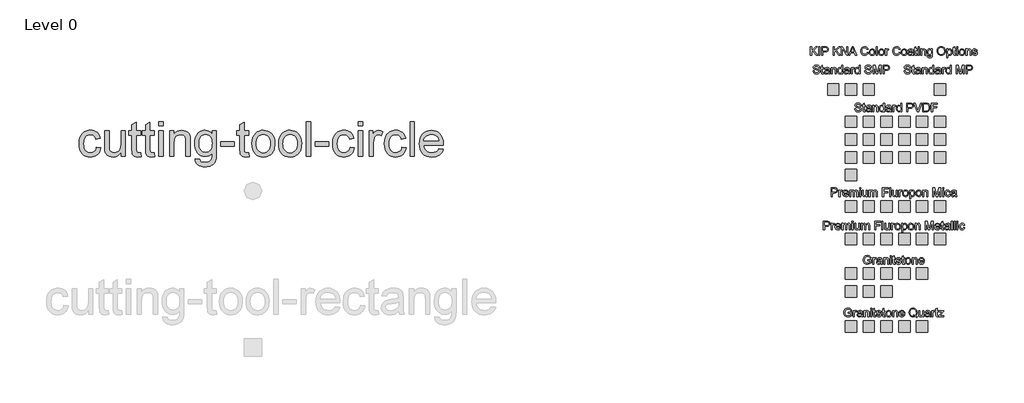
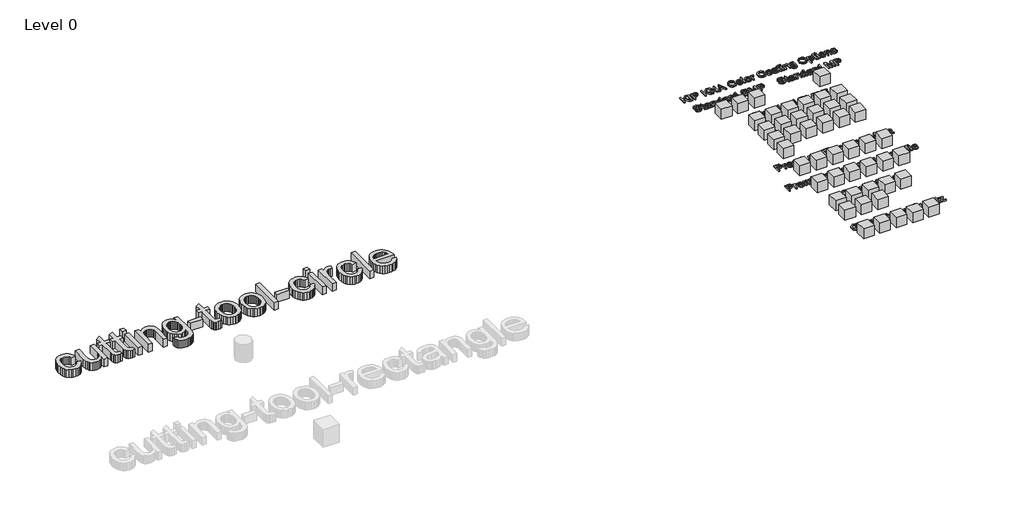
# One storey, part 3 of 3: 50 proxies.
"""IFC4 building model written with IfcOpenShell, lengths in millimetres."""

from ifc_helpers import new_model, si_unit, origin, origin_with_axes, place, context, project, spatial, polyline, outline, extrude, transform, mapped, element, save
from components import ks_color_sample_ks_color_sample_0243efec, r19_kna_color_range_kingspan_quadcore_4278cd54, r19_kna_color_range_kingspan_quadcore_c5814d20, r19_kna_color_range_kingspan_quadcore_91b79b7c

model = new_model("IFC4")

# Units and contexts
model_context = context("Model", 3, world=origin())
ifc_project = project(units=[si_unit("LENGTHUNIT", "METRE", prefix="MILLI")], contexts=[model_context])

# Site, building, storey
site = spatial("IfcSite", under=ifc_project)
building = spatial("IfcBuilding", under=site)
storey = spatial("IfcBuildingStorey", under=building, Name="Level 0", Elevation=0.0)

# Proxies
placement = place(None, origin())
element("IfcBuildingElementProxy", 1, Name="24\" Arial", ObjectType="24\" Arial", at=placement, inside=storey, context=model_context, shape_type="SweptSolid", body=[
    extrude(outline(polyline([(-693.1020406, 12635.1308129), (-616.9602671, 12625.6130912), (-625.2418003, 12589.6846213), (-638.1892479, 12557.8922707), (-655.8026098, 12530.2360393), (-678.0818861, 12506.7159273), (-704.088317, 12487.9453814), (-732.883143, 12474.5378487), (-764.466364, 12466.493329), (-798.83798, 12463.8118225), (-841.5422498, 12467.5529191), (-879.8315609, 12478.7762091), (-913.7059131, 12497.4816924), (-943.1653066, 12523.6693691), (-967.0107314, 12556.8466225), (-984.0431776, 12596.5208364), (-994.2626454, 12642.6920107), (-997.6691347, 12695.3601455), (-991.8506837, 12763.1181446), (-984.57762, 12793.6092442), (-974.3953309, 12821.8417439), (-961.2341063, 12847.2486699), (-945.0242366, 12869.2630486), (-925.7657216, 12887.8848801), (-903.4585614, 12903.1141642), (-879.1112255, 12914.9555484), (-853.7321834, 12923.41368), (-827.3214352, 12928.488559), (-799.8789808, 12930.1801853), (-766.0975751, 12927.8565228), (-735.5414129, 12920.8855352), (-708.2104943, 12909.2672226), (-684.1048193, 12893.0015849), (-663.6333525, 12872.4604082), (-647.2050585, 12848.0154785), (-634.8199372, 12819.6667957), (-626.4779888, 12787.4143599), (-702.6197623, 12777.8966382), (-716.4316123, 12811.1157177), (-737.9394326, 12834.9286112), (-765.953508, 12849.2609616), (-799.2841232, 12854.0384118), (-825.1557817, 12851.6868653), (-848.4900008, 12844.6322259), (-869.2867803, 12832.8744935), (-887.5461204, 12816.4136682), (-902.4129133, 12794.8686693), (-913.032051, 12767.8584162), (-919.4035336, 12735.3829087), (-921.5273612, 12697.4421471), (-919.4500069, 12658.9297645), (-913.217944, 12626.0778237), (-902.8311725, 12598.8863249), (-888.2896924, 12577.355268), (-870.3928437, 12560.9920365), (-849.9399662, 12549.304014), (-826.9310599, 12542.2912005), (-801.3661248, 12539.953596), (-761.9382192, 12545.7906363), (-744.8871836, 12553.0869366), (-729.6114261, 12563.301757), (-716.5385008, 12576.5466334), (-706.0959614, 12592.9331015), (-698.283808, 12612.4611613), (-693.1020406, 12635.1308129)])), origin_with_axes(), (0.0, 0.0, 1.0), 152.4),
    extrude(outline(polyline([(-264.8045646, 12473.3295442), (-264.8045646, 12550.2148897), (-292.3539074, 12512.4135478), (-324.4390395, 12485.4125893), (-361.0599609, 12469.2120142), (-402.2166715, 12463.8118225), (-439.3023253, 12467.6040397), (-473.8226557, 12478.9806914), (-502.7847854, 12496.0828476), (-523.195837, 12517.0515782), (-536.9333298, 12542.5189194), (-545.8747832, 12573.1169075), (-550.3362153, 12643.9049626), (-550.3362153, 12920.6624636), (-474.1944417, 12920.6624636), (-474.1944417, 12679.7451333), (-473.0419051, 12631.5616673), (-469.5842953, 12602.1162158), (-458.4864831, 12576.2213206), (-439.469629, 12556.5352518), (-413.7978055, 12544.0990099), (-382.7350849, 12539.953596), (-349.8877915, 12544.1919564), (-319.1596783, 12556.9070378), (-293.8224621, 12576.9277141), (-277.1478599, 12603.0828594), (-267.8903884, 12638.9044408), (-264.8045646, 12687.9244254), (-264.8045646, 12920.6624636), (-188.6627911, 12920.6624636), (-188.6627911, 12473.3295442), (-264.8045646, 12473.3295442)])), origin_with_axes(), (0.0, 0.0, 1.0), 152.4),
    extrude(outline(polyline([(77.8334163, 12536.8305936), (87.3511379, 12471.0988282), (57.1992931, 12465.6335739), (30.3935222, 12463.8118225), (-6.1530419, 12466.9720035), (-33.404956, 12476.4525466), (-52.663471, 12491.0637365), (-65.2298379, 12509.6158581), (-72.1450576, 12541.4779186), (-74.4501308, 12596.0189253), (-74.4501308, 12844.5206901), (-131.5564609, 12844.5206901), (-131.5564609, 12920.6624636), (-74.4501308, 12920.6624636), (-74.4501308, 13029.372691), (1.6916427, 13074.1357258), (1.6916427, 12920.6624636), (77.8334163, 12920.6624636), (77.8334163, 12844.5206901), (1.6916427, 12844.5206901), (1.6916427, 12598.2496414), (5.7069316, 12558.9890394), (18.7194417, 12545.0842429), (29.7057181, 12541.2362577), (44.6701047, 12539.953596), (77.8334163, 12536.8305936)])), origin_with_axes(), (0.0, 0.0, 1.0), 152.4),
    extrude(outline(polyline([(315.7764585, 12536.8305936), (325.2941802, 12471.0988282), (295.1423353, 12465.6335739), (268.3365644, 12463.8118225), (231.7900003, 12466.9720035), (204.5380862, 12476.4525466), (185.2795713, 12491.0637365), (172.7132043, 12509.6158581), (165.7979847, 12541.4779186), (163.4929115, 12596.0189253), (163.4929115, 12844.5206901), (106.3865813, 12844.5206901), (106.3865813, 12920.6624636), (163.4929115, 12920.6624636), (163.4929115, 13029.372691), (239.634685, 13074.1357258), (239.634685, 12920.6624636), (315.7764585, 12920.6624636), (315.7764585, 12844.5206901), (239.634685, 12844.5206901), (239.634685, 12598.2496414), (243.6499738, 12558.9890394), (256.6624839, 12545.0842429), (267.6487603, 12541.2362577), (282.613147, 12539.953596), (315.7764585, 12536.8305936)])), origin_with_axes(), (0.0, 0.0, 1.0), 152.4),
    extrude(outline(polyline([(391.918232, 13006.3219588), (391.918232, 13082.4637323), (468.0600055, 13082.4637323), (468.0600055, 13006.3219588), (391.918232, 13006.3219588)])), origin_with_axes(), (0.0, 0.0, 1.0), 152.4),
    extrude(outline(polyline([(391.918232, 12473.3295442), (391.918232, 12920.6624636), (468.0600055, 12920.6624636), (468.0600055, 12473.3295442), (391.918232, 12473.3295442)])), origin_with_axes(), (0.0, 0.0, 1.0), 152.4),
    extrude(outline(polyline([(582.2726658, 12473.3295442), (582.2726658, 12920.6624636), (658.4144393, 12920.6624636), (658.4144393, 12858.202415), (684.8670135, 12889.6926895), (716.6361275, 12912.1857427), (753.7217813, 12925.6815746), (796.123975, 12930.1801853), (833.6557721, 12926.5552717), (868.0273881, 12915.6805311), (896.692089, 12898.9129824), (917.1031406, 12877.6096444), (930.9521692, 12851.826285), (939.9308012, 12821.6186723), (943.94609, 12748.0050436), (943.94609, 12473.3295442), (867.8043165, 12473.3295442), (867.8043165, 12737.7437499), (865.6107791, 12777.1158876), (859.0301668, 12805.1113737), (846.8913538, 12825.1692286), (828.0232141, 12840.7284728), (803.8385346, 12850.710927), (775.750102, 12854.0384118), (752.6296599, 12852.1701871), (731.1543709, 12846.5655131), (711.3242349, 12837.2243898), (693.1392521, 12824.1468171), (677.9471465, 12805.8456511), (667.0956425, 12780.8337477), (660.5847401, 12749.1111069), (658.4144393, 12710.6777288), (658.4144393, 12473.3295442), (582.2726658, 12473.3295442)])), origin_with_axes(), (0.0, 0.0, 1.0), 152.4),
    extrude(outline(polyline([(1029.6055852, 12435.2586574), (1105.7473587, 12425.7409357), (1114.1497224, 12401.9466315), (1130.4339494, 12385.5880474), (1162.4447243, 12372.872966), (1204.3450069, 12368.6346056), (1249.0336845, 12373.430645), (1267.083895, 12379.4256943), (1282.2713532, 12387.8187634), (1305.3220854, 12410.8694956), (1319.4499535, 12441.6533767), (1323.5767782, 12474.4077236), (1324.6549576, 12530.4358743), (1299.3177415, 12505.4518549), (1271.0434159, 12487.6061267), (1239.8319809, 12476.8986898), (1205.6834365, 12473.3295442), (1163.9365156, 12477.4842528), (1127.1808218, 12489.9483785), (1095.4163552, 12510.7219215), (1068.6431156, 12539.8048816), (1047.4001928, 12574.696998), (1032.2266765, 12612.8980099), (1023.1225668, 12654.4079172), (1020.0878635, 12699.2267199), (1025.5345285, 12760.7015356), (1041.8745233, 12817.2315974), (1053.9854524, 12842.7221753), (1068.5315798, 12865.136224), (1085.5129055, 12884.4737435), (1104.9294295, 12900.7347338), (1126.4697811, 12913.6171188), (1149.8225895, 12922.8188224), (1174.9878546, 12928.3398446), (1201.9655764, 12930.1801853), (1237.5733809, 12926.016182), (1269.8908793, 12913.5241723), (1298.9180715, 12892.7041561), (1324.6549576, 12863.5561335), (1324.6549576, 12920.6624636), (1400.7967311, 12920.6624636), (1400.7967311, 12534.4511632), (1395.5917271, 12445.2782902), (1389.085472, 12412.1103314), (1379.9767149, 12386.554691), (1368.0470315, 12365.9438044), (1353.0779976, 12347.6101071), (1335.069613, 12331.5535991), (1314.0218779, 12317.7742803), (1290.1485691, 12306.7136467), (1263.6634637, 12298.8131941), (1234.5665616, 12294.0729226), (1202.8578629, 12292.4928321), (1165.5537847, 12294.7189008), (1132.0140399, 12301.3971069), (1102.2386283, 12312.5274503), (1076.2275501, 12328.1099312), (1055.2169935, 12348.1631388), (1040.4431472, 12372.7056623), (1031.9060111, 12401.7375019), (1029.6055852, 12435.2586574)]), holes=[polyline([(1096.229637, 12704.431724), (1098.2605181, 12666.7837438), (1104.3531612, 12634.5917232), (1114.5075664, 12607.8556622), (1128.7237338, 12586.5755608), (1146.0071356, 12570.3424545), (1165.3632444, 12558.7473785), (1186.7920602, 12551.7903329), (1210.2935829, 12549.4713177), (1233.5627394, 12551.7763909), (1254.889314, 12558.6916106), (1274.2733068, 12570.2169767), (1291.7147177, 12586.3524892), (1306.1260726, 12607.423461), (1316.4198976, 12633.7552047), (1322.5961926, 12665.3477203), (1324.6549576, 12702.2010079), (1322.5357774, 12737.5160309), (1316.1782367, 12768.2116129), (1305.5823356, 12794.2877537), (1290.7480741, 12815.7444534), (1272.9302299, 12832.4980602), (1253.3835807, 12844.4649222), (1232.1081267, 12851.6450394), (1209.1038677, 12854.0384118), (1186.4853367, 12851.682218), (1165.6234946, 12844.6136366), (1146.5183413, 12832.8326676), (1129.169877, 12816.339311), (1114.758522, 12795.207924), (1104.464697, 12769.5128639), (1098.288402, 12739.2541305), (1096.229637, 12704.431724)])]), origin_with_axes(), (0.0, 0.0, 1.0), 152.4),
    extrude(outline(polyline([(1476.9385046, 12654.1662563), (1476.9385046, 12730.3080298), (1714.8815469, 12730.3080298), (1714.8815469, 12654.1662563), (1476.9385046, 12654.1662563)])), origin_with_axes(), (0.0, 0.0, 1.0), 152.4),
    extrude(outline(polyline([(1962.3423108, 12536.8305936), (1971.8600325, 12471.0988282), (1941.7081876, 12465.6335739), (1914.9024168, 12463.8118225), (1878.3558526, 12466.9720035), (1851.1039386, 12476.4525466), (1831.8454236, 12491.0637365), (1819.2790567, 12509.6158581), (1812.363837, 12541.4779186), (1810.0587638, 12596.0189253), (1810.0587638, 12844.5206901), (1752.9524336, 12844.5206901), (1752.9524336, 12920.6624636), (1810.0587638, 12920.6624636), (1810.0587638, 13029.372691), (1886.2005373, 13074.1357258), (1886.2005373, 12920.6624636), (1962.3423108, 12920.6624636), (1962.3423108, 12844.5206901), (1886.2005373, 12844.5206901), (1886.2005373, 12598.2496414), (1890.2158261, 12558.9890394), (1903.2283362, 12545.0842429), (1914.2146127, 12541.2362577), (1929.1789993, 12539.953596), (1962.3423108, 12536.8305936)])), origin_with_axes(), (0.0, 0.0, 1.0), 152.4),
    extrude(outline(polyline([(2019.4486409, 12696.9960039), (2023.5661709, 12754.9295579), (2035.9187609, 12804.8511235), (2056.5064108, 12846.7607007), (2085.3291208, 12880.6582896), (2114.3470183, 12902.324119), (2146.3763825, 12917.7997114), (2181.4172134, 12927.0850668), (2219.4695108, 12930.1801853), (2261.4766819, 12926.4112047), (2299.4592695, 12915.1042628), (2333.4172736, 12896.2593598), (2363.3506942, 12869.8764955), (2387.7816819, 12836.8479564), (2405.2323875, 12798.0660289), (2415.7028108, 12753.530713), (2419.1929519, 12703.2420087), (2417.65004, 12662.4849681), (2413.0213042, 12626.3194846), (2405.3067447, 12594.7455583), (2394.5063613, 12567.7631891), (2380.7549265, 12544.456854), (2364.1872127, 12523.91103), (2344.8032199, 12506.125717), (2322.6029482, 12491.1009151), (2298.4507999, 12479.1619371), (2273.2111776, 12470.6340957), (2246.8840813, 12465.5173908), (2219.4695108, 12463.8118225), (2176.8488928, 12467.5668611), (2138.5131086, 12478.831977), (2104.462158, 12497.6071702), (2074.6960411, 12523.8924407), (2050.5253035, 12557.2416452), (2033.260491, 12597.2086405), (2022.9016034, 12643.7934268), (2019.4486409, 12696.9960039)]), holes=[polyline([(2095.5904145, 12697.1447183), (2097.7932465, 12660.2124262), (2104.4017427, 12628.2341825), (2115.4159031, 12601.2099874), (2130.8357276, 12579.1398408), (2149.5923315, 12561.9958587), (2170.61683, 12549.7501572), (2193.9092231, 12542.4027363), (2219.4695108, 12539.953596), (2244.8996735, 12542.4166783), (2268.0991201, 12549.8059251), (2289.0678507, 12562.1213365), (2307.8058653, 12579.3629124), (2323.2256898, 12601.6514833), (2334.2398501, 12629.1078796), (2340.8483463, 12661.7321015), (2343.0511784, 12699.5241487), (2340.8344043, 12735.2853149), (2334.1840822, 12766.42704), (2323.100212, 12792.9493241), (2307.5827937, 12814.852167), (2288.7750692, 12831.9961491), (2267.8202806, 12844.2418506), (2244.7184278, 12851.5892715), (2219.4695108, 12854.0384118), (2193.9092231, 12851.5985661), (2170.61683, 12844.2790292), (2149.5923315, 12832.0798009), (2130.8357276, 12815.0008814), (2115.4159031, 12792.9957973), (2104.4017427, 12766.0180754), (2097.7932465, 12734.0677158), (2095.5904145, 12697.1447183)])]), origin_with_axes(), (0.0, 0.0, 1.0), 152.4),
    extrude(outline(polyline([(2485.8170037, 12696.9960039), (2489.9345337, 12754.9295579), (2502.2871237, 12804.8511235), (2522.8747736, 12846.7607007), (2551.6974836, 12880.6582896), (2580.7153811, 12902.324119), (2612.7447453, 12917.7997114), (2647.7855762, 12927.0850668), (2685.8378736, 12930.1801853), (2727.8450447, 12926.4112047), (2765.8276323, 12915.1042628), (2799.7856364, 12896.2593598), (2829.719057, 12869.8764955), (2854.1500447, 12836.8479564), (2871.6007503, 12798.0660289), (2882.0711736, 12753.530713), (2885.5613147, 12703.2420087), (2884.0184028, 12662.4849681), (2879.389667, 12626.3194846), (2871.6751075, 12594.7455583), (2860.8747241, 12567.7631891), (2847.1232893, 12544.456854), (2830.5555755, 12523.91103), (2811.1715827, 12506.125717), (2788.971311, 12491.1009151), (2764.8191627, 12479.1619371), (2739.5795404, 12470.6340957), (2713.2524441, 12465.5173908), (2685.8378736, 12463.8118225), (2643.2172556, 12467.5668611), (2604.8814714, 12478.831977), (2570.8305208, 12497.6071702), (2541.0644039, 12523.8924407), (2516.8936663, 12557.2416452), (2499.6288538, 12597.2086405), (2489.2699662, 12643.7934268), (2485.8170037, 12696.9960039)]), holes=[polyline([(2561.9587773, 12697.1447183), (2564.1616093, 12660.2124262), (2570.7701055, 12628.2341825), (2581.7842659, 12601.2099874), (2597.2040904, 12579.1398408), (2615.9606943, 12561.9958587), (2636.9851928, 12549.7501572), (2660.2775859, 12542.4027363), (2685.8378736, 12539.953596), (2711.2680363, 12542.4166783), (2734.4674829, 12549.8059251), (2755.4362135, 12562.1213365), (2774.174228, 12579.3629124), (2789.5940525, 12601.6514833), (2800.6082129, 12629.1078796), (2807.2167091, 12661.7321015), (2809.4195412, 12699.5241487), (2807.2027671, 12735.2853149), (2800.552445, 12766.42704), (2789.4685748, 12792.9493241), (2773.9511564, 12814.852167), (2755.143432, 12831.9961491), (2734.1886434, 12844.2418506), (2711.0867906, 12851.5892715), (2685.8378736, 12854.0384118), (2660.2775859, 12851.5985661), (2636.9851928, 12844.2790292), (2615.9606943, 12832.0798009), (2597.2040904, 12815.0008814), (2581.7842659, 12792.9957973), (2570.7701055, 12766.0180754), (2564.1616093, 12734.0677158), (2561.9587773, 12697.1447183)])]), origin_with_axes(), (0.0, 0.0, 1.0), 152.4),
    extrude(outline(polyline([(2971.2208099, 12473.3295442), (2971.2208099, 13082.4637323), (3047.3625834, 13082.4637323), (3047.3625834, 12473.3295442), (2971.2208099, 12473.3295442)])), origin_with_axes(), (0.0, 0.0, 1.0), 152.4),
    extrude(outline(polyline([(3123.5043569, 12654.1662563), (3123.5043569, 12730.3080298), (3361.4473992, 12730.3080298), (3361.4473992, 12654.1662563), (3123.5043569, 12654.1662563)])), origin_with_axes(), (0.0, 0.0, 1.0), 152.4),
    extrude(outline(polyline([(3732.6385451, 12635.1308129), (3808.7803186, 12625.6130912), (3800.4987854, 12589.6846213), (3787.5513378, 12557.8922707), (3769.9379759, 12530.2360393), (3747.6586996, 12506.7159273), (3721.6522687, 12487.9453814), (3692.8574427, 12474.5378487), (3661.2742217, 12466.493329), (3626.9026057, 12463.8118225), (3584.1983359, 12467.5529191), (3545.9090248, 12478.7762091), (3512.0346726, 12497.4816924), (3482.5752791, 12523.6693691), (3458.7298543, 12556.8466225), (3441.697408, 12596.5208364), (3431.4779403, 12642.6920107), (3428.071451, 12695.3601455), (3433.889902, 12763.1181446), (3441.1629657, 12793.6092442), (3451.3452548, 12821.8417439), (3464.5064794, 12847.2486699), (3480.7163491, 12869.2630486), (3499.9748641, 12887.8848801), (3522.2820243, 12903.1141642), (3546.6293602, 12914.9555484), (3572.0084023, 12923.41368), (3598.4191505, 12928.488559), (3625.8616049, 12930.1801853), (3659.6430106, 12927.8565228), (3690.1991728, 12920.8855352), (3717.5300914, 12909.2672226), (3741.6357664, 12893.0015849), (3762.1072332, 12872.4604082), (3778.5355272, 12848.0154785), (3790.9206484, 12819.6667957), (3799.2625969, 12787.4143599), (3723.1208234, 12777.8966382), (3709.3089734, 12811.1157177), (3687.8011531, 12834.9286112), (3659.7870777, 12849.2609616), (3626.4564625, 12854.0384118), (3600.584804, 12851.6868653), (3577.2505849, 12844.6322259), (3556.4538053, 12832.8744935), (3538.1944652, 12816.4136682), (3523.3276724, 12794.8686693), (3512.7085347, 12767.8584162), (3506.3370521, 12735.3829087), (3504.2132245, 12697.4421471), (3506.2905788, 12658.9297645), (3512.5226417, 12626.0778237), (3522.9094132, 12598.8863249), (3537.4508932, 12577.355268), (3555.347742, 12560.9920365), (3575.8006195, 12549.304014), (3598.8095258, 12542.2912005), (3624.3744609, 12539.953596), (3663.8023665, 12545.7906363), (3680.8534021, 12553.0869366), (3696.1291595, 12563.301757), (3709.2020849, 12576.5466334), (3719.6446243, 12592.9331015), (3727.4567777, 12612.4611613), (3732.6385451, 12635.1308129)])), origin_with_axes(), (0.0, 0.0, 1.0), 152.4),
    extrude(outline(polyline([(3875.4043704, 13006.3219588), (3875.4043704, 13082.4637323), (3951.5461439, 13082.4637323), (3951.5461439, 13006.3219588), (3875.4043704, 13006.3219588)])), origin_with_axes(), (0.0, 0.0, 1.0), 152.4),
    extrude(outline(polyline([(3875.4043704, 12473.3295442), (3875.4043704, 12920.6624636), (3951.5461439, 12920.6624636), (3951.5461439, 12473.3295442), (3875.4043704, 12473.3295442)])), origin_with_axes(), (0.0, 0.0, 1.0), 152.4),
    extrude(outline(polyline([(4065.7588042, 12473.3295442), (4065.7588042, 12920.6624636), (4132.382856, 12920.6624636), (4132.382856, 12854.484555), (4156.9950895, 12892.8528705), (4179.6740357, 12915.4574595), (4202.4273391, 12926.4995038), (4227.2626441, 12930.1801853), (4265.1848165, 12924.3059664), (4303.7018465, 12906.6833099), (4278.2716838, 12838.4233996), (4251.5030916, 12850.1346587), (4224.7344993, 12854.0384118), (4201.9997852, 12850.2833731), (4181.6816801, 12839.0182572), (4165.267328, 12821.0981719), (4154.243873, 12797.3782248), (4144.9864016, 12754.845906), (4141.9005777, 12708.4470128), (4141.9005777, 12473.3295442), (4065.7588042, 12473.3295442)])), origin_with_axes(), (0.0, 0.0, 1.0), 152.4),
    extrude(outline(polyline([(4636.8221056, 12635.1308129), (4712.9638791, 12625.6130912), (4704.6823459, 12589.6846213), (4691.7348983, 12557.8922707), (4674.1215364, 12530.2360393), (4651.8422601, 12506.7159273), (4625.8358292, 12487.9453814), (4597.0410032, 12474.5378487), (4565.4577822, 12466.493329), (4531.0861662, 12463.8118225), (4488.3818964, 12467.5529191), (4450.0925853, 12478.7762091), (4416.2182331, 12497.4816924), (4386.7588396, 12523.6693691), (4362.9134148, 12556.8466225), (4345.8809686, 12596.5208364), (4335.6615008, 12642.6920107), (4332.2550115, 12695.3601455), (4338.0734625, 12763.1181446), (4345.3465262, 12793.6092442), (4355.5288153, 12821.8417439), (4368.6900399, 12847.2486699), (4384.8999096, 12869.2630486), (4404.1584246, 12887.8848801), (4426.4655848, 12903.1141642), (4450.8129207, 12914.9555484), (4476.1919628, 12923.41368), (4502.602711, 12928.488559), (4530.0451654, 12930.1801853), (4563.8265711, 12927.8565228), (4594.3827333, 12920.8855352), (4621.7136519, 12909.2672226), (4645.8193269, 12893.0015849), (4666.2907937, 12872.4604082), (4682.7190877, 12848.0154785), (4695.104209, 12819.6667957), (4703.4461574, 12787.4143599), (4627.3043839, 12777.8966382), (4613.4925339, 12811.1157177), (4591.9847136, 12834.9286112), (4563.9706382, 12849.2609616), (4530.640023, 12854.0384118), (4504.7683645, 12851.6868653), (4481.4341454, 12844.6322259), (4460.6373659, 12832.8744935), (4442.3780258, 12816.4136682), (4427.5112329, 12794.8686693), (4416.8920952, 12767.8584162), (4410.5206126, 12735.3829087), (4408.396785, 12697.4421471), (4410.4741393, 12658.9297645), (4416.7062022, 12626.0778237), (4427.0929737, 12598.8863249), (4441.6344538, 12577.355268), (4459.5313025, 12560.9920365), (4479.98418, 12549.304014), (4502.9930863, 12542.2912005), (4528.5580214, 12539.953596), (4567.985927, 12545.7906363), (4585.0369626, 12553.0869366), (4600.31272, 12563.301757), (4613.3856454, 12576.5466334), (4623.8281848, 12592.9331015), (4631.6403382, 12612.4611613), (4636.8221056, 12635.1308129)])), origin_with_axes(), (0.0, 0.0, 1.0), 152.4),
    extrude(outline(polyline([(4779.5879309, 12473.3295442), (4779.5879309, 13082.4637323), (4855.7297045, 13082.4637323), (4855.7297045, 12473.3295442), (4779.5879309, 12473.3295442)])), origin_with_axes(), (0.0, 0.0, 1.0), 152.4),
    extrude(outline(polyline([(5283.1348941, 12606.5776478), (5357.7895236, 12597.0599261), (5346.343162, 12567.1590368), (5330.8908062, 12540.8087038), (5311.4324563, 12518.0089271), (5287.9681121, 12498.7597068), (5260.7394347, 12483.4700074), (5229.9880849, 12472.5487936), (5195.7140627, 12465.9960653), (5157.9173681, 12463.8118225), (5110.6726617, 12467.5808031), (5068.5771915, 12478.8877449), (5031.6309574, 12497.732648), (4999.8339594, 12524.1155123), (4974.264377, 12557.3020604), (4956.0003896, 12596.558015), (4945.0419971, 12641.8833762), (4941.3891997, 12693.2781438), (4945.0791757, 12746.4156584), (4956.149104, 12793.2514002), (4974.5989844, 12833.7853692), (5000.428817, 12868.0175655), (5032.1421631, 12895.2137117), (5068.2425841, 12914.6395303), (5108.7300798, 12926.2950215), (5153.6046505, 12930.1801853), (5197.033903, 12926.3043162), (5236.3084469, 12914.6767089), (5271.4282823, 12895.2973635), (5302.3934091, 12868.1662799), (5327.67021, 12834.0084408), (5345.7250678, 12793.548829), (5356.5579824, 12746.7874444), (5360.168954, 12693.7242871), (5359.7228108, 12673.2016997), (5017.5309732, 12673.2016997), (5021.9412846, 12642.8174885), (5030.710787, 12616.2069053), (5043.8394802, 12593.3699501), (5061.3273644, 12574.3066227), (5082.2077958, 12559.2771735), (5105.5141309, 12548.5418527), (5131.2463697, 12542.1006602), (5159.4045121, 12539.953596), (5199.9291865, 12543.9317062), (5234.0591416, 12555.866037), (5261.7943775, 12576.5001602), (5283.1348941, 12606.5776478)]), holes=[polyline([(5017.5309732, 12749.3434732), (5284.0271805, 12749.3434732), (5273.7287082, 12789.5707188), (5264.8709067, 12805.3902132), (5253.5407282, 12818.3469554), (5232.7764799, 12833.9619676), (5209.1494794, 12845.1155477), (5182.6597266, 12851.8076957), (5153.3072217, 12854.0384118), (5126.5339821, 12852.2584863), (5101.9821639, 12846.9187098), (5079.651767, 12838.0190823), (5059.5427916, 12825.5596039), (5042.6683543, 12810.1165428), (5030.0415722, 12792.2661673), (5021.6624451, 12772.0084774), (5017.5309732, 12749.3434732)])]), origin_with_axes(), (0.0, 0.0, 1.0), 152.4),
])
ks_color_sample_ks_color_sample_shape = ks_color_sample_ks_color_sample_0243efec(model_context)
element("IfcBuildingElementProxy", 2, Name="KS_Color Sample : KS_Color Sample", ObjectType="KS_Color Sample : KS_Color Sample", at=placement, inside=storey, context=model_context, shape_type="MappedRepresentation", body=[
    mapped(ks_color_sample_ks_color_sample_shape, transform((12166.5853815, 13639.2290821, 0.0), x_axis=(1.0, 0.0, 0.0), y_axis=(0.0, 1.0, 0.0), z_axis=(0.0, 0.0, 1.0))),
])
element("IfcBuildingElementProxy", 3, Name="KS_Color Sample : KS_Color Sample", ObjectType="KS_Color Sample : KS_Color Sample", at=placement, inside=storey, context=model_context, shape_type="MappedRepresentation", body=[
    mapped(ks_color_sample_ks_color_sample_shape, transform((12476.5853815, 13639.2290821, 0.0), x_axis=(1.0, 0.0, 0.0), y_axis=(0.0, 1.0, 0.0), z_axis=(0.0, 0.0, 1.0))),
])
element("IfcBuildingElementProxy", 4, Name="KS_Color Sample : KS_Color Sample", ObjectType="KS_Color Sample : KS_Color Sample", at=placement, inside=storey, context=model_context, shape_type="MappedRepresentation", body=[
    mapped(ks_color_sample_ks_color_sample_shape, transform((12786.5853815, 13639.2290821, 0.0), x_axis=(1.0, 0.0, 0.0), y_axis=(0.0, 1.0, 0.0), z_axis=(0.0, 0.0, 1.0))),
])
element("IfcBuildingElementProxy", 5, Name="KS_Color Sample : KS_Color Sample", ObjectType="KS_Color Sample : KS_Color Sample", at=placement, inside=storey, context=model_context, shape_type="MappedRepresentation", body=[
    mapped(ks_color_sample_ks_color_sample_shape, transform((14026.5853815, 13639.2290821, 0.0), x_axis=(1.0, 0.0, 0.0), y_axis=(0.0, 1.0, 0.0), z_axis=(0.0, 0.0, 1.0))),
])
element("IfcBuildingElementProxy", 6, Name="KS_Color Sample : KS_Color Sample", ObjectType="KS_Color Sample : KS_Color Sample", at=placement, inside=storey, context=model_context, shape_type="MappedRepresentation", body=[
    mapped(ks_color_sample_ks_color_sample_shape, transform((12786.5853815, 13079.2290821, 0.0), x_axis=(1.0, 0.0, 0.0), y_axis=(0.0, 1.0, 0.0), z_axis=(0.0, 0.0, 1.0))),
])
element("IfcBuildingElementProxy", 7, Name="KS_Color Sample : KS_Color Sample", ObjectType="KS_Color Sample : KS_Color Sample", at=placement, inside=storey, context=model_context, shape_type="MappedRepresentation", body=[
    mapped(ks_color_sample_ks_color_sample_shape, transform((13096.5853815, 13079.2290821, 0.0), x_axis=(1.0, 0.0, 0.0), y_axis=(0.0, 1.0, 0.0), z_axis=(0.0, 0.0, 1.0))),
])
element("IfcBuildingElementProxy", 8, Name="KS_Color Sample : KS_Color Sample", ObjectType="KS_Color Sample : KS_Color Sample", at=placement, inside=storey, context=model_context, shape_type="MappedRepresentation", body=[
    mapped(ks_color_sample_ks_color_sample_shape, transform((13406.5853815, 13079.2290821, 0.0), x_axis=(1.0, 0.0, 0.0), y_axis=(0.0, 1.0, 0.0), z_axis=(0.0, 0.0, 1.0))),
])
element("IfcBuildingElementProxy", 9, Name="KS_Color Sample : KS_Color Sample", ObjectType="KS_Color Sample : KS_Color Sample", at=placement, inside=storey, context=model_context, shape_type="MappedRepresentation", body=[
    mapped(ks_color_sample_ks_color_sample_shape, transform((13716.5853815, 13079.2290821, 0.0), x_axis=(1.0, 0.0, 0.0), y_axis=(0.0, 1.0, 0.0), z_axis=(0.0, 0.0, 1.0))),
])
element("IfcBuildingElementProxy", 10, Name="KS_Color Sample : KS_Color Sample", ObjectType="KS_Color Sample : KS_Color Sample", at=placement, inside=storey, context=model_context, shape_type="MappedRepresentation", body=[
    mapped(ks_color_sample_ks_color_sample_shape, transform((12476.5853815, 11599.2290821, 0.0), x_axis=(1.0, 0.0, 0.0), y_axis=(0.0, 1.0, 0.0), z_axis=(0.0, 0.0, 1.0))),
])
element("IfcBuildingElementProxy", 11, Name="KS_Color Sample : KS_Color Sample", ObjectType="KS_Color Sample : KS_Color Sample", at=placement, inside=storey, context=model_context, shape_type="MappedRepresentation", body=[
    mapped(ks_color_sample_ks_color_sample_shape, transform((12786.5853815, 11599.2290821, 0.0), x_axis=(1.0, 0.0, 0.0), y_axis=(0.0, 1.0, 0.0), z_axis=(0.0, 0.0, 1.0))),
])
element("IfcBuildingElementProxy", 12, Name="KS_Color Sample : KS_Color Sample", ObjectType="KS_Color Sample : KS_Color Sample", at=placement, inside=storey, context=model_context, shape_type="MappedRepresentation", body=[
    mapped(ks_color_sample_ks_color_sample_shape, transform((13096.5853815, 11599.2290821, 0.0), x_axis=(1.0, 0.0, 0.0), y_axis=(0.0, 1.0, 0.0), z_axis=(0.0, 0.0, 1.0))),
])
element("IfcBuildingElementProxy", 13, Name="KS_Color Sample : KS_Color Sample", ObjectType="KS_Color Sample : KS_Color Sample", at=placement, inside=storey, context=model_context, shape_type="MappedRepresentation", body=[
    mapped(ks_color_sample_ks_color_sample_shape, transform((13406.5853815, 11599.2290821, 0.0), x_axis=(1.0, 0.0, 0.0), y_axis=(0.0, 1.0, 0.0), z_axis=(0.0, 0.0, 1.0))),
])
element("IfcBuildingElementProxy", 14, Name="KS_Color Sample : KS_Color Sample", ObjectType="KS_Color Sample : KS_Color Sample", at=placement, inside=storey, context=model_context, shape_type="MappedRepresentation", body=[
    mapped(ks_color_sample_ks_color_sample_shape, transform((14026.5853815, 13079.2290821, 0.0), x_axis=(1.0, 0.0, 0.0), y_axis=(0.0, 1.0, 0.0), z_axis=(0.0, 0.0, 1.0))),
])
element("IfcBuildingElementProxy", 15, Name="KS_Color Sample : KS_Color Sample", ObjectType="KS_Color Sample : KS_Color Sample", at=placement, inside=storey, context=model_context, shape_type="MappedRepresentation", body=[
    mapped(ks_color_sample_ks_color_sample_shape, transform((13716.5853815, 12769.2290821, 0.0), x_axis=(1.0, 0.0, 0.0), y_axis=(0.0, 1.0, 0.0), z_axis=(0.0, 0.0, 1.0))),
])
element("IfcBuildingElementProxy", 16, Name="KS_Color Sample : KS_Color Sample", ObjectType="KS_Color Sample : KS_Color Sample", at=placement, inside=storey, context=model_context, shape_type="MappedRepresentation", body=[
    mapped(ks_color_sample_ks_color_sample_shape, transform((14026.5853815, 12769.2290821, 0.0), x_axis=(1.0, 0.0, 0.0), y_axis=(0.0, 1.0, 0.0), z_axis=(0.0, 0.0, 1.0))),
])
element("IfcBuildingElementProxy", 17, Name="KS_Color Sample : KS_Color Sample", ObjectType="KS_Color Sample : KS_Color Sample", at=placement, inside=storey, context=model_context, shape_type="MappedRepresentation", body=[
    mapped(ks_color_sample_ks_color_sample_shape, transform((12476.5853815, 12769.2290821, 0.0), x_axis=(1.0, 0.0, 0.0), y_axis=(0.0, 1.0, 0.0), z_axis=(0.0, 0.0, 1.0))),
])
element("IfcBuildingElementProxy", 18, Name="KS_Color Sample : KS_Color Sample", ObjectType="KS_Color Sample : KS_Color Sample", at=placement, inside=storey, context=model_context, shape_type="MappedRepresentation", body=[
    mapped(ks_color_sample_ks_color_sample_shape, transform((13096.5853815, 12769.2290821, 0.0), x_axis=(1.0, 0.0, 0.0), y_axis=(0.0, 1.0, 0.0), z_axis=(0.0, 0.0, 1.0))),
])
element("IfcBuildingElementProxy", 19, Name="KS_Color Sample : KS_Color Sample", ObjectType="KS_Color Sample : KS_Color Sample", at=placement, inside=storey, context=model_context, shape_type="MappedRepresentation", body=[
    mapped(ks_color_sample_ks_color_sample_shape, transform((13406.5853815, 12769.2290821, 0.0), x_axis=(1.0, 0.0, 0.0), y_axis=(0.0, 1.0, 0.0), z_axis=(0.0, 0.0, 1.0))),
])
element("IfcBuildingElementProxy", 20, Name="KS_Color Sample : KS_Color Sample", ObjectType="KS_Color Sample : KS_Color Sample", at=placement, inside=storey, context=model_context, shape_type="MappedRepresentation", body=[
    mapped(ks_color_sample_ks_color_sample_shape, transform((12476.5853815, 12459.2290821, 0.0), x_axis=(1.0, 0.0, 0.0), y_axis=(0.0, 1.0, 0.0), z_axis=(0.0, 0.0, 1.0))),
])
element("IfcBuildingElementProxy", 21, Name="KS_Color Sample : KS_Color Sample", ObjectType="KS_Color Sample : KS_Color Sample", at=placement, inside=storey, context=model_context, shape_type="MappedRepresentation", body=[
    mapped(ks_color_sample_ks_color_sample_shape, transform((12786.5853815, 12459.2290821, 0.0), x_axis=(1.0, 0.0, 0.0), y_axis=(0.0, 1.0, 0.0), z_axis=(0.0, 0.0, 1.0))),
])
element("IfcBuildingElementProxy", 22, Name="KS_Color Sample : KS_Color Sample", ObjectType="KS_Color Sample : KS_Color Sample", at=placement, inside=storey, context=model_context, shape_type="MappedRepresentation", body=[
    mapped(ks_color_sample_ks_color_sample_shape, transform((13096.5853815, 12459.2290821, 0.0), x_axis=(1.0, 0.0, 0.0), y_axis=(0.0, 1.0, 0.0), z_axis=(0.0, 0.0, 1.0))),
])
element("IfcBuildingElementProxy", 23, Name="KS_Color Sample : KS_Color Sample", ObjectType="KS_Color Sample : KS_Color Sample", at=placement, inside=storey, context=model_context, shape_type="MappedRepresentation", body=[
    mapped(ks_color_sample_ks_color_sample_shape, transform((13406.5853815, 12459.2290821, 0.0), x_axis=(1.0, 0.0, 0.0), y_axis=(0.0, 1.0, 0.0), z_axis=(0.0, 0.0, 1.0))),
])
element("IfcBuildingElementProxy", 24, Name="KS_Color Sample : KS_Color Sample", ObjectType="KS_Color Sample : KS_Color Sample", at=placement, inside=storey, context=model_context, shape_type="MappedRepresentation", body=[
    mapped(ks_color_sample_ks_color_sample_shape, transform((13716.5853815, 12459.2290821, 0.0), x_axis=(1.0, 0.0, 0.0), y_axis=(0.0, 1.0, 0.0), z_axis=(0.0, 0.0, 1.0))),
])
element("IfcBuildingElementProxy", 25, Name="KS_Color Sample : KS_Color Sample", ObjectType="KS_Color Sample : KS_Color Sample", at=placement, inside=storey, context=model_context, shape_type="MappedRepresentation", body=[
    mapped(ks_color_sample_ks_color_sample_shape, transform((14026.5853815, 12459.2290821, 0.0), x_axis=(1.0, 0.0, 0.0), y_axis=(0.0, 1.0, 0.0), z_axis=(0.0, 0.0, 1.0))),
])
element("IfcBuildingElementProxy", 26, Name="KS_Color Sample : KS_Color Sample", ObjectType="KS_Color Sample : KS_Color Sample", at=placement, inside=storey, context=model_context, shape_type="MappedRepresentation", body=[
    mapped(ks_color_sample_ks_color_sample_shape, transform((12476.5853815, 12149.2290821, 0.0), x_axis=(1.0, 0.0, 0.0), y_axis=(0.0, 1.0, 0.0), z_axis=(0.0, 0.0, 1.0))),
])
element("IfcBuildingElementProxy", 27, Name="KS_Color Sample : KS_Color Sample", ObjectType="KS_Color Sample : KS_Color Sample", at=placement, inside=storey, context=model_context, shape_type="MappedRepresentation", body=[
    mapped(ks_color_sample_ks_color_sample_shape, transform((13716.5853815, 11599.2290821, 0.0), x_axis=(1.0, 0.0, 0.0), y_axis=(0.0, 1.0, 0.0), z_axis=(0.0, 0.0, 1.0))),
])
element("IfcBuildingElementProxy", 28, Name="KS_Color Sample : KS_Color Sample", ObjectType="KS_Color Sample : KS_Color Sample", at=placement, inside=storey, context=model_context, shape_type="MappedRepresentation", body=[
    mapped(ks_color_sample_ks_color_sample_shape, transform((14026.5853815, 11599.2290821, 0.0), x_axis=(1.0, 0.0, 0.0), y_axis=(0.0, 1.0, 0.0), z_axis=(0.0, 0.0, 1.0))),
])
element("IfcBuildingElementProxy", 29, Name="KS_Color Sample : KS_Color Sample", ObjectType="KS_Color Sample : KS_Color Sample", at=placement, inside=storey, context=model_context, shape_type="MappedRepresentation", body=[
    mapped(ks_color_sample_ks_color_sample_shape, transform((12476.5853815, 11029.2290821, 0.0), x_axis=(1.0, 0.0, 0.0), y_axis=(0.0, 1.0, 0.0), z_axis=(0.0, 0.0, 1.0))),
])
element("IfcBuildingElementProxy", 30, Name="KS_Color Sample : KS_Color Sample", ObjectType="KS_Color Sample : KS_Color Sample", at=placement, inside=storey, context=model_context, shape_type="MappedRepresentation", body=[
    mapped(ks_color_sample_ks_color_sample_shape, transform((12786.5853815, 11029.2290821, 0.0), x_axis=(1.0, 0.0, 0.0), y_axis=(0.0, 1.0, 0.0), z_axis=(0.0, 0.0, 1.0))),
])
element("IfcBuildingElementProxy", 31, Name="KS_Color Sample : KS_Color Sample", ObjectType="KS_Color Sample : KS_Color Sample", at=placement, inside=storey, context=model_context, shape_type="MappedRepresentation", body=[
    mapped(ks_color_sample_ks_color_sample_shape, transform((13096.5853815, 11029.2290821, 0.0), x_axis=(1.0, 0.0, 0.0), y_axis=(0.0, 1.0, 0.0), z_axis=(0.0, 0.0, 1.0))),
])
element("IfcBuildingElementProxy", 32, Name="KS_Color Sample : KS_Color Sample", ObjectType="KS_Color Sample : KS_Color Sample", at=placement, inside=storey, context=model_context, shape_type="MappedRepresentation", body=[
    mapped(ks_color_sample_ks_color_sample_shape, transform((13406.5853815, 11029.2290821, 0.0), x_axis=(1.0, 0.0, 0.0), y_axis=(0.0, 1.0, 0.0), z_axis=(0.0, 0.0, 1.0))),
])
element("IfcBuildingElementProxy", 33, Name="KS_Color Sample : KS_Color Sample", ObjectType="KS_Color Sample : KS_Color Sample", at=placement, inside=storey, context=model_context, shape_type="MappedRepresentation", body=[
    mapped(ks_color_sample_ks_color_sample_shape, transform((13716.5853815, 11029.2290821, 0.0), x_axis=(1.0, 0.0, 0.0), y_axis=(0.0, 1.0, 0.0), z_axis=(0.0, 0.0, 1.0))),
])
element("IfcBuildingElementProxy", 34, Name="KS_Color Sample : KS_Color Sample", ObjectType="KS_Color Sample : KS_Color Sample", at=placement, inside=storey, context=model_context, shape_type="MappedRepresentation", body=[
    mapped(ks_color_sample_ks_color_sample_shape, transform((14026.5853815, 11029.2290821, 0.0), x_axis=(1.0, 0.0, 0.0), y_axis=(0.0, 1.0, 0.0), z_axis=(0.0, 0.0, 1.0))),
])
element("IfcBuildingElementProxy", 35, Name="KS_Color Sample : KS_Color Sample", ObjectType="KS_Color Sample : KS_Color Sample", at=placement, inside=storey, context=model_context, shape_type="MappedRepresentation", body=[
    mapped(ks_color_sample_ks_color_sample_shape, transform((12476.5853815, 10429.2290821, 0.0), x_axis=(1.0, 0.0, 0.0), y_axis=(0.0, 1.0, 0.0), z_axis=(0.0, 0.0, 1.0))),
])
element("IfcBuildingElementProxy", 36, Name="KS_Color Sample : KS_Color Sample", ObjectType="KS_Color Sample : KS_Color Sample", at=placement, inside=storey, context=model_context, shape_type="MappedRepresentation", body=[
    mapped(ks_color_sample_ks_color_sample_shape, transform((12786.5853815, 10429.2290821, 0.0), x_axis=(1.0, 0.0, 0.0), y_axis=(0.0, 1.0, 0.0), z_axis=(0.0, 0.0, 1.0))),
])
element("IfcBuildingElementProxy", 37, Name="KS_Color Sample : KS_Color Sample", ObjectType="KS_Color Sample : KS_Color Sample", at=placement, inside=storey, context=model_context, shape_type="MappedRepresentation", body=[
    mapped(ks_color_sample_ks_color_sample_shape, transform((13096.5853815, 10429.2290821, 0.0), x_axis=(1.0, 0.0, 0.0), y_axis=(0.0, 1.0, 0.0), z_axis=(0.0, 0.0, 1.0))),
])
element("IfcBuildingElementProxy", 38, Name="KS_Color Sample : KS_Color Sample", ObjectType="KS_Color Sample : KS_Color Sample", at=placement, inside=storey, context=model_context, shape_type="MappedRepresentation", body=[
    mapped(ks_color_sample_ks_color_sample_shape, transform((13406.5853815, 10429.2290821, 0.0), x_axis=(1.0, 0.0, 0.0), y_axis=(0.0, 1.0, 0.0), z_axis=(0.0, 0.0, 1.0))),
])
element("IfcBuildingElementProxy", 39, Name="KS_Color Sample : KS_Color Sample", ObjectType="KS_Color Sample : KS_Color Sample", at=placement, inside=storey, context=model_context, shape_type="MappedRepresentation", body=[
    mapped(ks_color_sample_ks_color_sample_shape, transform((13716.5853815, 10429.2290821, 0.0), x_axis=(1.0, 0.0, 0.0), y_axis=(0.0, 1.0, 0.0), z_axis=(0.0, 0.0, 1.0))),
])
element("IfcBuildingElementProxy", 40, Name="KS_Color Sample : KS_Color Sample", ObjectType="KS_Color Sample : KS_Color Sample", at=placement, inside=storey, context=model_context, shape_type="MappedRepresentation", body=[
    mapped(ks_color_sample_ks_color_sample_shape, transform((12476.5853815, 10119.2290821, 0.0), x_axis=(1.0, 0.0, 0.0), y_axis=(0.0, 1.0, 0.0), z_axis=(0.0, 0.0, 1.0))),
])
element("IfcBuildingElementProxy", 41, Name="KS_Color Sample : KS_Color Sample", ObjectType="KS_Color Sample : KS_Color Sample", at=placement, inside=storey, context=model_context, shape_type="MappedRepresentation", body=[
    mapped(ks_color_sample_ks_color_sample_shape, transform((12786.5853815, 10119.2290821, 0.0), x_axis=(1.0, 0.0, 0.0), y_axis=(0.0, 1.0, 0.0), z_axis=(0.0, 0.0, 1.0))),
])
element("IfcBuildingElementProxy", 42, Name="KS_Color Sample : KS_Color Sample", ObjectType="KS_Color Sample : KS_Color Sample", at=placement, inside=storey, context=model_context, shape_type="MappedRepresentation", body=[
    mapped(ks_color_sample_ks_color_sample_shape, transform((13096.5853815, 10119.2290821, 0.0), x_axis=(1.0, 0.0, 0.0), y_axis=(0.0, 1.0, 0.0), z_axis=(0.0, 0.0, 1.0))),
])
element("IfcBuildingElementProxy", 43, Name="KS_Color Sample : KS_Color Sample", ObjectType="KS_Color Sample : KS_Color Sample", at=placement, inside=storey, context=model_context, shape_type="MappedRepresentation", body=[
    mapped(ks_color_sample_ks_color_sample_shape, transform((12476.5853815, 9509.2290821, 0.0), x_axis=(1.0, 0.0, 0.0), y_axis=(0.0, 1.0, 0.0), z_axis=(0.0, 0.0, 1.0))),
])
element("IfcBuildingElementProxy", 44, Name="KS_Color Sample : KS_Color Sample", ObjectType="KS_Color Sample : KS_Color Sample", at=placement, inside=storey, context=model_context, shape_type="MappedRepresentation", body=[
    mapped(ks_color_sample_ks_color_sample_shape, transform((12786.5853815, 9509.2290821, 0.0), x_axis=(1.0, 0.0, 0.0), y_axis=(0.0, 1.0, 0.0), z_axis=(0.0, 0.0, 1.0))),
])
element("IfcBuildingElementProxy", 45, Name="KS_Color Sample : KS_Color Sample", ObjectType="KS_Color Sample : KS_Color Sample", at=placement, inside=storey, context=model_context, shape_type="MappedRepresentation", body=[
    mapped(ks_color_sample_ks_color_sample_shape, transform((13096.5853815, 9509.2290821, 0.0), x_axis=(1.0, 0.0, 0.0), y_axis=(0.0, 1.0, 0.0), z_axis=(0.0, 0.0, 1.0))),
])
element("IfcBuildingElementProxy", 46, Name="KS_Color Sample : KS_Color Sample", ObjectType="KS_Color Sample : KS_Color Sample", at=placement, inside=storey, context=model_context, shape_type="MappedRepresentation", body=[
    mapped(ks_color_sample_ks_color_sample_shape, transform((13406.5853815, 9509.2290821, 0.0), x_axis=(1.0, 0.0, 0.0), y_axis=(0.0, 1.0, 0.0), z_axis=(0.0, 0.0, 1.0))),
])
element("IfcBuildingElementProxy", 47, Name="KS_Color Sample : KS_Color Sample", ObjectType="KS_Color Sample : KS_Color Sample", at=placement, inside=storey, context=model_context, shape_type="MappedRepresentation", body=[
    mapped(ks_color_sample_ks_color_sample_shape, transform((13716.5853815, 9509.2290821, 0.0), x_axis=(1.0, 0.0, 0.0), y_axis=(0.0, 1.0, 0.0), z_axis=(0.0, 0.0, 1.0))),
])
element("IfcBuildingElementProxy", 48, Name="KS_Color Sample : KS_Color Sample", ObjectType="KS_Color Sample : KS_Color Sample", at=placement, inside=storey, context=model_context, shape_type="MappedRepresentation", body=[
    mapped(ks_color_sample_ks_color_sample_shape, transform((12476.5853815, 13079.2290821, 0.0), x_axis=(1.0, 0.0, 0.0), y_axis=(0.0, 1.0, 0.0), z_axis=(0.0, 0.0, 1.0))),
])
element("IfcBuildingElementProxy", 49, Name="KS_Color Sample : KS_Color Sample", ObjectType="KS_Color Sample : KS_Color Sample", at=placement, inside=storey, context=model_context, shape_type="MappedRepresentation", body=[
    mapped(ks_color_sample_ks_color_sample_shape, transform((12786.5853815, 12769.2290821, 0.0), x_axis=(1.0, 0.0, 0.0), y_axis=(0.0, 1.0, 0.0), z_axis=(0.0, 0.0, 1.0))),
])
r19_kna_color_range_kingspan_quadcore_shape = r19_kna_color_range_kingspan_quadcore_4278cd54(model_context)
r19_kna_color_range_kingspan_quadcore_2_shape = r19_kna_color_range_kingspan_quadcore_c5814d20(model_context)
r19_kna_color_range_kingspan_quadcore_3_shape = r19_kna_color_range_kingspan_quadcore_91b79b7c(model_context)
element("IfcBuildingElementProxy", 50, Name="R19_KNA_Color Range : Kingspan Quadcore", ObjectType="R19_KNA_Color Range : Kingspan Quadcore", at=placement, inside=storey, context=model_context, shape_type="MappedRepresentation", body=[
    mapped(r19_kna_color_range_kingspan_quadcore_shape, transform((13221.5853815, 13539.2290821, 0.0), x_axis=(1.0, 0.0, 0.0), y_axis=(0.0, 1.0, 0.0), z_axis=(0.0, 0.0, 1.0))),
    mapped(r19_kna_color_range_kingspan_quadcore_2_shape, transform((13221.5853815, 13539.2290821, 0.0), x_axis=(1.0, 0.0, 0.0), y_axis=(0.0, 1.0, 0.0), z_axis=(0.0, 0.0, 1.0))),
    mapped(r19_kna_color_range_kingspan_quadcore_3_shape, transform((13221.5853815, 13539.2290821, 0.0), x_axis=(1.0, 0.0, 0.0), y_axis=(0.0, 1.0, 0.0), z_axis=(0.0, 0.0, 1.0))),
])

save(model, "model.ifc")
